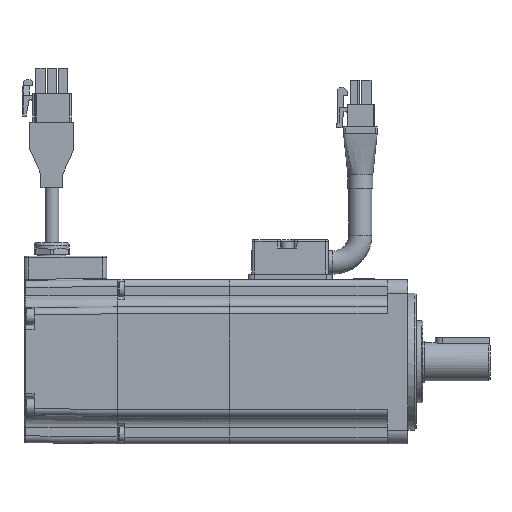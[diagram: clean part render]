
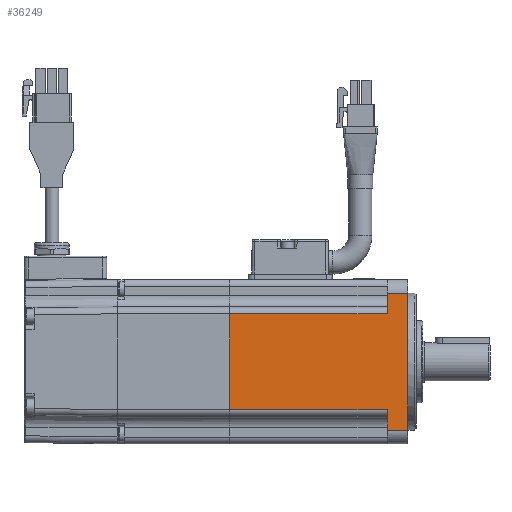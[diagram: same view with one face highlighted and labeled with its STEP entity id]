
A CAD part, left-side view. The second image highlights one B-rep face of the part: STEP entity #36249.
In plain terms, the highlighted planar face has unit normal (-1, 0, 0).
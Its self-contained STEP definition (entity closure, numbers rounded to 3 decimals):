
#513=LINE('',#54633,#3721);
#515=LINE('',#54648,#3723);
#526=LINE('',#54709,#3734);
#548=LINE('',#54756,#3756);
#549=LINE('',#54757,#3757);
#550=LINE('',#54758,#3758);
#551=LINE('',#54760,#3759);
#552=LINE('',#54762,#3760);
#3721=VECTOR('',#42452,1000.);
#3723=VECTOR('',#42468,1000.);
#3734=VECTOR('',#42525,1000.);
#3756=VECTOR('',#42573,1000.);
#3757=VECTOR('',#42574,1000.);
#3758=VECTOR('',#42575,1000.);
#3759=VECTOR('',#42576,1000.);
#3760=VECTOR('',#42577,1000.);
#10152=ORIENTED_EDGE('',*,*,#20000,.T.);
#10153=ORIENTED_EDGE('',*,*,#19940,.T.);
#10154=ORIENTED_EDGE('',*,*,#20001,.T.);
#10155=ORIENTED_EDGE('',*,*,#19946,.F.);
#10156=ORIENTED_EDGE('',*,*,#20002,.T.);
#10157=ORIENTED_EDGE('',*,*,#20003,.T.);
#10158=ORIENTED_EDGE('',*,*,#20004,.T.);
#10159=ORIENTED_EDGE('',*,*,#19974,.F.);
#19940=EDGE_CURVE('',#24881,#24903,#513,.T.);
#19946=EDGE_CURVE('',#24909,#24910,#515,.T.);
#19974=EDGE_CURVE('',#24937,#24938,#526,.T.);
#20000=EDGE_CURVE('',#24937,#24881,#548,.T.);
#20001=EDGE_CURVE('',#24903,#24910,#549,.T.);
#20002=EDGE_CURVE('',#24909,#24949,#550,.T.);
#20003=EDGE_CURVE('',#24949,#24950,#551,.T.);
#20004=EDGE_CURVE('',#24950,#24938,#552,.F.);
#24881=VERTEX_POINT('',#54588);
#24903=VERTEX_POINT('',#54632);
#24909=VERTEX_POINT('',#54647);
#24910=VERTEX_POINT('',#54649);
#24937=VERTEX_POINT('',#54710);
#24938=VERTEX_POINT('',#54711);
#24949=VERTEX_POINT('',#54759);
#24950=VERTEX_POINT('',#54761);
#29506=EDGE_LOOP('',(#10152,#10153,#10154,#10155,#10156,#10157,#10158,#10159));
#32263=FACE_BOUND('',#29506,.T.);
#34885=PLANE('',#38782);
#36249=ADVANCED_FACE('',(#32263),#34885,.T.);
#38782=AXIS2_PLACEMENT_3D('',#54755,#42571,#42572);
#42452=DIRECTION('',(0.,0.,-1.));
#42468=DIRECTION('',(0.,0.,1.));
#42525=DIRECTION('',(0.,0.,1.));
#42571=DIRECTION('',(-1.,0.,0.));
#42572=DIRECTION('',(0.,0.,1.));
#42573=DIRECTION('',(0.,1.,0.));
#42574=DIRECTION('',(0.,-1.,0.));
#42575=DIRECTION('',(0.,-1.,0.));
#42576=DIRECTION('',(0.,0.,1.));
#42577=DIRECTION('',(0.,-1.,0.));
#54588=CARTESIAN_POINT('',(-30.,65.7,17.5));
#54632=CARTESIAN_POINT('',(-30.,65.7,-17.5));
#54633=CARTESIAN_POINT('',(-30.,65.7,30.));
#54647=CARTESIAN_POINT('',(-30.,8.3,-25.));
#54648=CARTESIAN_POINT('',(-30.,8.3,30.));
#54649=CARTESIAN_POINT('',(-30.,8.3,-17.5));
#54709=CARTESIAN_POINT('',(-30.,8.3,30.));
#54710=CARTESIAN_POINT('',(-30.,8.3,17.5));
#54711=CARTESIAN_POINT('',(-30.,8.3,25.));
#54755=CARTESIAN_POINT('',(-30.,170.145,30.));
#54756=CARTESIAN_POINT('',(-30.,170.145,17.5));
#54757=CARTESIAN_POINT('',(-30.,170.145,-17.5));
#54758=CARTESIAN_POINT('',(-30.,170.145,-25.));
#54759=CARTESIAN_POINT('',(-30.,0.7,-25.));
#54760=CARTESIAN_POINT('',(-30.,0.7,30.));
#54761=CARTESIAN_POINT('',(-30.,0.7,25.));
#54762=CARTESIAN_POINT('',(-30.,170.145,25.));
